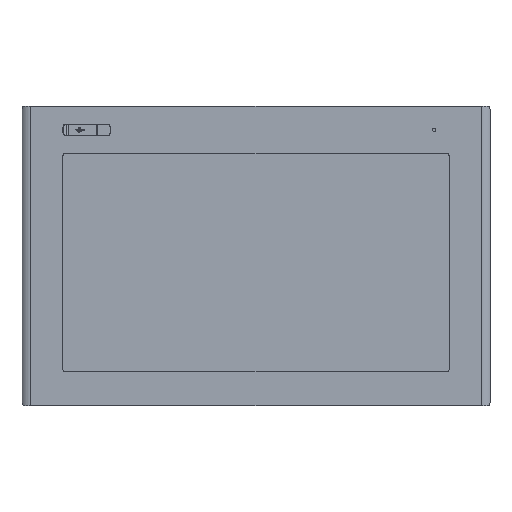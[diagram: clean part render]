
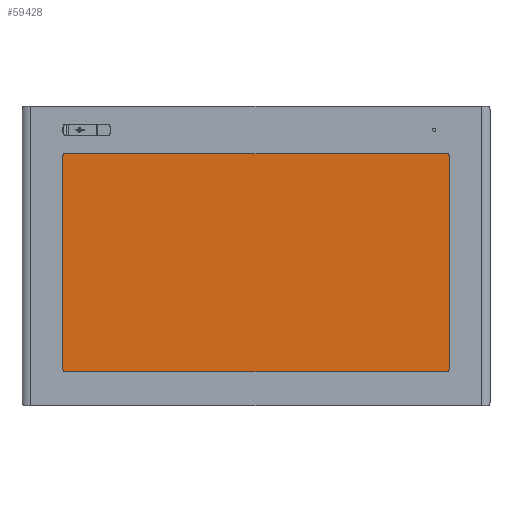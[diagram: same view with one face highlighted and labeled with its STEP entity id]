
A CAD part, front view. The second image highlights one B-rep face of the part: STEP entity #59428.
In plain terms, the highlighted planar face has unit normal (0, 1, 0).
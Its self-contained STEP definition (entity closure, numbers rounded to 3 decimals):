
#59333=DIRECTION('',(0.,0.,-1.));
#59334=VECTOR('',#59333,254.);
#59335=CARTESIAN_POINT('',(-215.,-23.,130.75));
#59336=LINE('',#59335,#59334);
#59337=DIRECTION('',(1.,0.,0.));
#59338=VECTOR('',#59337,429.86);
#59339=CARTESIAN_POINT('',(-215.,-23.,-123.25));
#59340=LINE('',#59339,#59338);
#59341=DIRECTION('',(0.,0.,1.));
#59342=VECTOR('',#59341,254.);
#59343=CARTESIAN_POINT('',(214.86,-23.,-123.25));
#59344=LINE('',#59343,#59342);
#59345=DIRECTION('',(-1.,0.,0.));
#59346=VECTOR('',#59345,429.86);
#59347=CARTESIAN_POINT('',(214.86,-23.,130.75));
#59348=LINE('',#59347,#59346);
#59389=CARTESIAN_POINT('',(-215.,-23.,130.75));
#59390=CARTESIAN_POINT('',(-215.,-23.,-123.25));
#59391=VERTEX_POINT('',#59389);
#59392=VERTEX_POINT('',#59390);
#59393=CARTESIAN_POINT('',(214.86,-23.,-123.25));
#59394=VERTEX_POINT('',#59393);
#59395=CARTESIAN_POINT('',(214.86,-23.,130.75));
#59396=VERTEX_POINT('',#59395);
#59413=CARTESIAN_POINT('',(-0.07,-23.,3.75));
#59414=DIRECTION('',(0.,-1.,0.));
#59415=DIRECTION('',(1.,0.,0.));
#59416=AXIS2_PLACEMENT_3D('',#59413,#59414,#59415);
#59417=PLANE('',#59416);
#59419=ORIENTED_EDGE('',*,*,#59418,.T.);
#59421=ORIENTED_EDGE('',*,*,#59420,.T.);
#59423=ORIENTED_EDGE('',*,*,#59422,.T.);
#59425=ORIENTED_EDGE('',*,*,#59424,.T.);
#59426=EDGE_LOOP('',(#59419,#59421,#59423,#59425));
#59427=FACE_OUTER_BOUND('',#59426,.F.);
#59418=EDGE_CURVE('',#59391,#59392,#59336,.T.);
#59420=EDGE_CURVE('',#59392,#59394,#59340,.T.);
#59422=EDGE_CURVE('',#59394,#59396,#59344,.T.);
#59424=EDGE_CURVE('',#59396,#59391,#59348,.T.);
#59428=ADVANCED_FACE('',(#59427),#59417,.F.);
